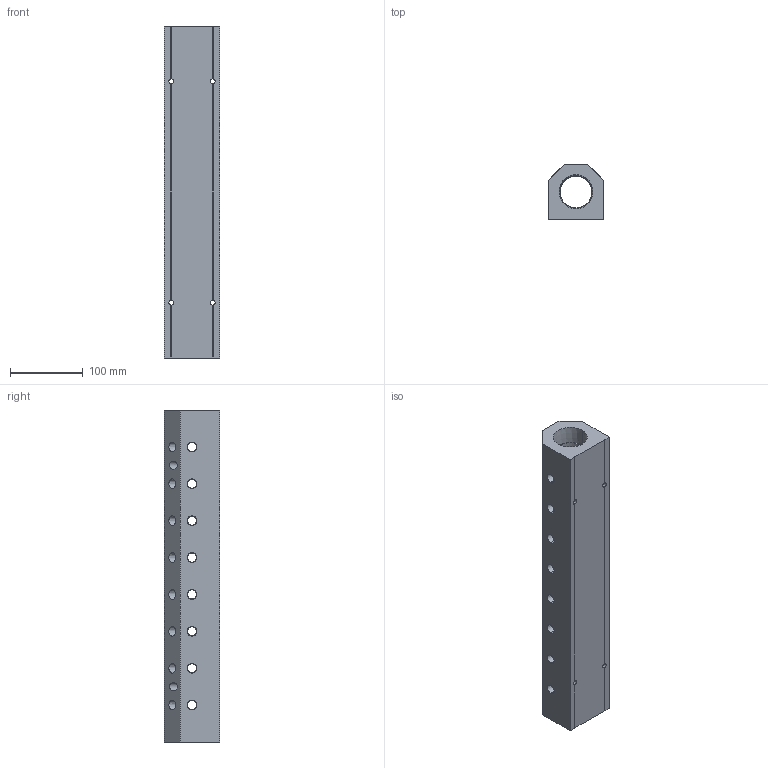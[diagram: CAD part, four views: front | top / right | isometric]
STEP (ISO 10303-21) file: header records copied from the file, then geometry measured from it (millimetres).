
FILE_DESCRIPTION (( 'STEP AP214' ), '1' );
FILE_NAME ('ALM8ABCDE-N4N24-457R.step', '2022-02-07T07:39:54', ( '' ), ( '' ), 'SwSTEP 2.0', 'SolidWorks 2020', '' );
FILE_SCHEMA (( 'AUTOMOTIVE_DESIGN' ));
Length unit declared in the file: millimetre
Products named in the file (1): ALM8ABCDE-N4N24-457R
Bounding box: 76.2 x 76.2 x 457 mm (x, y, z)
Volume: 1618861.3 mm3; surface area: 220206.9 mm2
Topology: 1 solids, 1 shells, 422 faces, 1151 edges, 754 vertices
Faces by surface type: plane 257, cone 84, bspline 63, cylinder 18
Entity records: 24841 total; most frequent: CARTESIAN_POINT 10423, ORIENTED_EDGE 2302, DIRECTION 1765, EDGE_CURVE 1151, LINE 813, VECTOR 813, VERTEX_POINT 754, EDGE_LOOP 535
